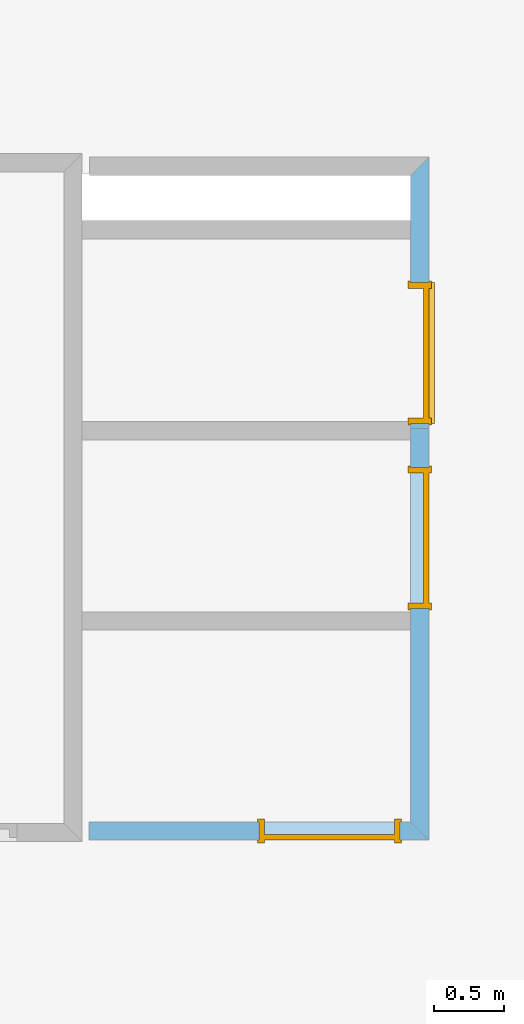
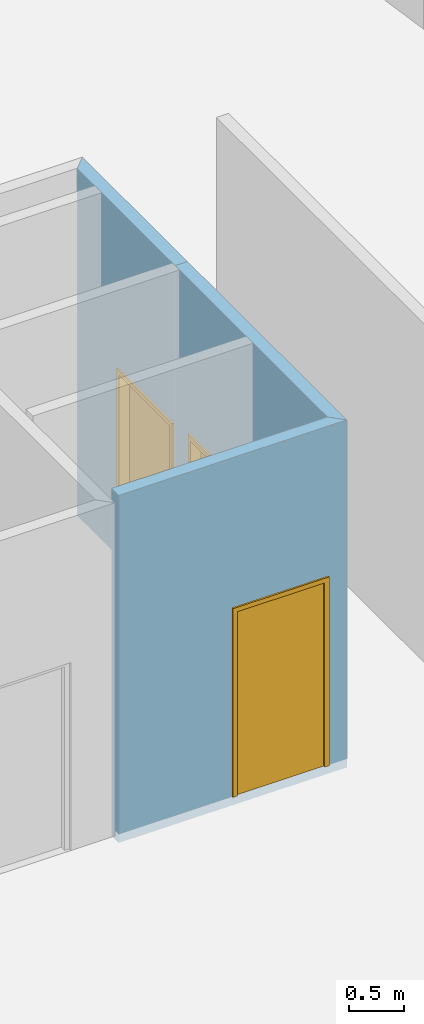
# One storey, part 23 of 27: 3 doors, 3 openings, plus 3 elements that do not belong to this part.
"""IFC2X3 building model written with IfcOpenShell, lengths in metres."""

from ifc_helpers import new_model, entity, si_unit, converted_unit, money_unit, direction, frame, origin_with_axes, origin_2d_with_axis, place, context, subcontext, project, spatial, polyline, rectangle, outline, extrude, faceted_brep, source, transform, mapped, material, material_list, layer, layer_set, layer_usage, type_object, element, fill, save


model = new_model("IFC2X3")

# Units and contexts
model_context = context("Model", 3, precision=1e-05, world=origin_with_axes(), true_north=direction((0.0, 1.0)))
body_context = subcontext(model_context, "Body", "Model", "MODEL_VIEW")
ifc_project = project(units=[si_unit("LENGTHUNIT", "METRE"), si_unit("AREAUNIT", "SQUARE_METRE"), si_unit("VOLUMEUNIT", "CUBIC_METRE"), converted_unit("PLANEANGLEUNIT", "DEGREE", entity("IfcPlaneAngleMeasure", 0.0174532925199), si_unit("PLANEANGLEUNIT", "RADIAN"), dimensions=[0, 0, 0, 0, 0, 0, 0]), si_unit("SOLIDANGLEUNIT", "STERADIAN"), money_unit("EUR"), converted_unit("TIMEUNIT", "Year", entity("IfcTimeMeasure", 31556926.0), si_unit("TIMEUNIT", "SECOND"), dimensions=[0, 0, 0, 0, 0, 0, 0]), si_unit("MASSUNIT", "GRAM"), si_unit("THERMODYNAMICTEMPERATUREUNIT", "DEGREE_CELSIUS"), si_unit("LUMINOUSINTENSITYUNIT", "LUMEN")], contexts=[model_context])

# Site, building, storey
site_placement = place(None, origin_with_axes())
site = spatial("IfcSite", under=ifc_project, at=site_placement, Name="Undefined", CompositionType="ELEMENT")
building_placement = place(site_placement, origin_with_axes())
building = spatial("IfcBuilding", under=site, at=building_placement, Name="Undefined", CompositionType="ELEMENT")
storey_placement = place(building_placement, frame((0.0, 0.0, 5.4), z_axis=(0.0, 0.0, 1.0), x_axis=(1.0, 0.0, 0.0)))
storey = spatial("IfcBuildingStorey", under=building, at=storey_placement, Name="R+1", CompositionType="ELEMENT", Elevation=5.4)

# Wall, opening, door
ifc_material_1 = material(Name="Finition int - Enduit pl\x89tre")
ifc_layer_1 = layer(ifc_material_1, 0.015, ventilated="UNKNOWN")
ifc_material_2 = material(Name="Struct. - Parpaing b\x8eton")
ifc_layer_2 = layer(ifc_material_2, 0.1, ventilated="UNKNOWN")
ifc_layer_3 = layer(ifc_material_1, 0.015, ventilated="UNKNOWN")
ifc_layer_set = layer_set([ifc_layer_1, ifc_layer_2, ifc_layer_3], Name="0.0-Cloison: parpaing + pl\x89tre 2 faces copie")
ifc_layer_usage_1 = layer_usage(ifc_layer_set, "AXIS2", "POSITIVE", -0.05)
wall_type = type_object("IfcWallType", Name="0.0-Cloison: parpaing + pl\x89tre 2 faces copie 130", PredefinedType="NOTDEFINED")
wall_1_placement = place(storey_placement, frame((59.375, 9.245, -0.1), z_axis=(0.0, 0.0, 1.0), x_axis=(0.0, 1.0, 0.0)))
wall_1 = element("IfcWallStandardCase", 1, at=wall_1_placement, inside=storey, type_object=wall_type, material=ifc_layer_usage_1, Name="VOILE_10CM", context=body_context, shape_type="SweptSolid", body=[
    extrude(outline(polyline([(-0.05, -0.05), (2.86999999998, -0.05), (2.86999999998, 0.08), (0.08, 0.08), (-0.05, -0.05)])), origin_with_axes(), (0.0, 0.0, 1.0), 3.88499999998),
])
opening_1_placement = place(wall_1_placement, frame((2.09347547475, 0.0, 0.06), z_axis=(0.0, 0.0, 1.0), x_axis=(1.0, 0.0, 0.0)))
opening_1 = element("IfcOpeningElement", 2, at=opening_1_placement, cuts=wall_1, Name="DOOR_1000", context=body_context, shape_type="SweptSolid", body=[
    extrude(rectangle(XDim=1.0, YDim=2.1, at=origin_2d_with_axis()), frame((0.0, 0.13, 1.05), z_axis=(0.0, -1.0, 0.0), x_axis=(-1.0, 0.0, 0.0)), (0.0, 0.0, 1.0), 0.39),
    extrude(rectangle(XDim=1.02, YDim=2.11, at=origin_2d_with_axis()), frame((0.0, 0.21, 1.055), z_axis=(0.0, -1.0, 0.0), x_axis=(-1.0, 0.0, 0.0)), (0.0, 0.0, 1.0), 0.13),
    extrude(rectangle(XDim=1.02, YDim=2.11, at=origin_2d_with_axis()), frame((0.0, -0.18, 1.055), z_axis=(0.0, 1.0, 0.0), x_axis=(-1.0, 0.0, 0.0)), (0.0, 0.0, 1.0), 0.13),
])
ifc_material_3 = material(Name="Empty Fill")
ifc_material_4 = material(Name="Air Space")
ifc_material_5 = material(Name="Foreground")
ifc_material_6 = material(Name="Background Fill-International")
ifc_material_7 = material(Name="Rigid Insulation")
ifc_material_8 = material(Name="Background")
ifc_material_list = material_list([ifc_material_3, ifc_material_4, ifc_material_5, ifc_material_3, ifc_material_6, ifc_material_3, ifc_material_3, ifc_material_7, ifc_material_6, ifc_material_3, ifc_material_3, ifc_material_3, ifc_material_4, ifc_material_8, ifc_material_8, ifc_material_6])
door_style_1 = type_object("IfcDoorStyle", Name="Porte 18", ConstructionType="NOTDEFINED", OperationType="SINGLE_SWING_RIGHT", ParameterTakesPrecedence=False, Sizeable=False)
shared_shape_1 = source(origin_with_axes(), body_context, "Body", "Brep", [
    faceted_brep([(-0.51, -0.149, 0.0), (-0.51, -0.13, 0.0), (-0.46, -0.13, 0.0), (-0.46, -0.149, 0.0), (-0.51, -0.149, 2.11), (-0.51, -0.13, 2.11), (-0.46, -0.13, 2.06), (-0.46, -0.149, 2.06)], [[[0, 1, 2, 3]], [[4, 5, 1, 0]], [[1, 5, 6, 2]], [[3, 2, 6, 7]], [[0, 3, 7, 4]], [[7, 6, 5, 4]]]),
    faceted_brep([(0.51, -0.149, 2.11), (0.51, -0.13, 2.11), (0.46, -0.13, 2.06), (0.46, -0.149, 2.06), (0.51, -0.149, 0.0), (0.51, -0.13, 0.0), (0.46, -0.13, 0.0), (0.46, -0.149, 0.0)], [[[0, 1, 2, 3]], [[4, 5, 1, 0]], [[1, 5, 6, 2]], [[3, 2, 6, 7]], [[0, 3, 7, 4]], [[7, 6, 5, 4]]]),
    faceted_brep([(-0.51, -0.149, 2.11), (-0.51, -0.13, 2.11), (-0.46, -0.13, 2.06), (-0.46, -0.149, 2.06), (0.51, -0.149, 2.11), (0.51, -0.13, 2.11), (0.46, -0.13, 2.06), (0.46, -0.149, 2.06)], [[[0, 1, 2, 3]], [[4, 5, 1, 0]], [[1, 5, 6, 2]], [[3, 2, 6, 7]], [[0, 3, 7, 4]], [[7, 6, 5, 4]]]),
    faceted_brep([(-0.51, 0.019, 0.0), (-0.46, 0.019, 0.0), (-0.46, 0.0, 0.0), (-0.51, 0.0, 0.0), (-0.51, 0.019, 2.11), (-0.46, 0.019, 2.06), (-0.46, 0.0, 2.06), (-0.51, 0.0, 2.11)], [[[0, 1, 2, 3]], [[0, 4, 5, 1]], [[1, 5, 6, 2]], [[3, 2, 6, 7]], [[4, 0, 3, 7]], [[5, 4, 7, 6]]]),
    faceted_brep([(0.51, 0.019, 2.11), (0.46, 0.019, 2.06), (0.46, 0.0, 2.06), (0.51, 0.0, 2.11), (0.51, 0.019, 0.0), (0.46, 0.019, 0.0), (0.46, 0.0, 0.0), (0.51, 0.0, 0.0)], [[[0, 1, 2, 3]], [[0, 4, 5, 1]], [[1, 5, 6, 2]], [[3, 2, 6, 7]], [[4, 0, 3, 7]], [[5, 4, 7, 6]]]),
    faceted_brep([(-0.51, 0.019, 2.11), (-0.46, 0.019, 2.06), (-0.46, 0.0, 2.06), (-0.51, 0.0, 2.11), (0.51, 0.019, 2.11), (0.46, 0.019, 2.06), (0.46, 0.0, 2.06), (0.51, 0.0, 2.11)], [[[0, 1, 2, 3]], [[0, 4, 5, 1]], [[1, 5, 6, 2]], [[3, 2, 6, 7]], [[4, 0, 3, 7]], [[5, 4, 7, 6]]]),
    faceted_brep([(-0.46, -0.04, 0.0), (-0.46, -0.04, 2.06), (-0.46, -0.13, 2.06), (-0.46, -0.13, 0.0), (-0.472, -0.04, 2.06), (-0.472, -0.04, 0.0), (-0.472, 0.0, 2.06), (-0.5, 0.0, 2.06), (-0.5, -0.13, 2.06), (-0.5, -0.13, 0.0), (-0.5, 0.0, 0.0), (-0.472, 0.0, 0.0)], [[[0, 1, 2, 3]], [[4, 1, 0, 5]], [[4, 6, 7, 8, 2, 1]], [[8, 9, 3, 2]], [[5, 0, 3, 9, 10, 11]], [[6, 4, 5, 11]], [[6, 11, 10, 7]], [[8, 7, 10, 9]]]),
    faceted_brep([(0.472, -0.04, 2.06), (0.46, -0.04, 2.06), (0.46, -0.13, 2.06), (0.5, -0.13, 2.06), (0.5, 0.0, 2.06), (0.472, 0.0, 2.06), (0.472, -0.04, 0.0), (0.46, -0.04, 0.0), (0.46, -0.13, 0.0), (0.5, -0.13, 0.0), (0.5, 0.0, 0.0), (0.472, 0.0, 0.0)], [[[0, 1, 2, 3, 4, 5]], [[1, 0, 6, 7]], [[1, 7, 8, 2]], [[8, 9, 3, 2]], [[9, 10, 4, 3]], [[11, 5, 4, 10]], [[0, 5, 11, 6]], [[6, 11, 10, 9, 8, 7]]]),
    faceted_brep([(-0.472, 0.0, 2.072), (-0.472, 0.0, 2.06), (-0.5, 0.0, 2.06), (-0.5, 0.0, 2.1), (0.5, 0.0, 2.1), (0.5, 0.0, 2.06), (0.472, 0.0, 2.06), (0.472, 0.0, 2.072), (-0.472, -0.04, 2.072), (-0.472, -0.04, 2.06), (-0.46, -0.04, 2.06), (-0.46, -0.13, 2.06), (-0.5, -0.13, 2.06), (-0.5, -0.13, 2.1), (0.5, -0.13, 2.1), (0.5, -0.13, 2.06), (0.472, -0.04, 2.06), (0.46, -0.13, 2.06), (0.46, -0.04, 2.06), (0.472, -0.04, 2.072)], [[[0, 1, 2, 3, 4, 5, 6, 7]], [[1, 0, 8, 9]], [[9, 10, 11, 12, 2, 1]], [[13, 3, 2, 12]], [[14, 4, 3, 13]], [[15, 5, 4, 14]], [[16, 6, 5, 15, 17, 18]], [[7, 6, 16, 19]], [[0, 7, 19, 8]], [[16, 18, 10, 9, 8, 19]], [[10, 18, 17, 11]], [[14, 13, 12, 11, 17, 15]]]),
    faceted_brep([(0.472, 0.0, 0.0), (0.472, -0.04, 0.0), (-0.472, -0.04, 0.0), (-0.472, 0.0, 0.0), (0.472, 0.0, 2.072), (0.472, -0.04, 2.072), (-0.472, -0.04, 2.072), (-0.472, 0.0, 2.072)], [[[0, 1, 2, 3]], [[4, 5, 1, 0]], [[1, 5, 6, 2]], [[3, 2, 6, 7]], [[0, 3, 7, 4]], [[7, 6, 5, 4]]]),
])
door_1_placement = place(opening_1_placement, frame((0.5, 0.0, 0.0), z_axis=(0.0, 0.0, 1.0), x_axis=(-1.0, 0.0, 0.0)))
door_1 = element("IfcDoor", 3, at=door_1_placement, inside=storey, type_object=door_style_1, material=ifc_material_list, Name="DOOR_1000", ObjectType="DOOR", OverallHeight=2.1, OverallWidth=1.0, context=body_context, shape_type="MappedRepresentation", body=[
    mapped(shared_shape_1, transform((0.5, 0.05, 0.0))),
])
fill(opening_1, door_1)

ifc_layer_usage_2 = layer_usage(ifc_layer_set, "AXIS2", "POSITIVE", -0.05)
wall_2_placement = place(storey_placement, frame((57.0135327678, 9.245, -0.1), z_axis=(0.0, 0.0, 1.0), x_axis=(1.0, 0.0, 0.0)))
wall_2 = element("IfcWallStandardCase", 4, at=wall_2_placement, inside=storey, type_object=wall_type, material=ifc_layer_usage_2, Name="VOILE_10CM", context=body_context, shape_type="SweptSolid", body=[
    extrude(outline(polyline([(0.0, -0.05), (2.41146723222, -0.05), (2.28146723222, 0.08), (0.0, 0.08), (0.0, -0.05)])), origin_with_axes(), (0.0, 0.0, 1.0), 3.88499999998),
])
opening_2_placement = place(wall_2_placement, frame((1.70624922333, 0.0, 0.1), z_axis=(0.0, 0.0, 1.0), x_axis=(1.0, 0.0, 0.0)))
opening_2 = element("IfcOpeningElement", 5, at=opening_2_placement, cuts=wall_2, Name="DOOR_1000", context=body_context, shape_type="SweptSolid", body=[
    extrude(rectangle(XDim=1.0, YDim=2.1, at=origin_2d_with_axis()), frame((0.0, 0.13, 1.05), z_axis=(0.0, 1.0, 0.0), x_axis=(1.0, 0.0, 0.0)), (0.0, 0.0, -1.0), 0.39),
    extrude(rectangle(XDim=1.02, YDim=2.11, at=origin_2d_with_axis()), frame((0.0, 0.21, 1.055), z_axis=(0.0, 1.0, 0.0), x_axis=(1.0, 0.0, 0.0)), (0.0, 0.0, -1.0), 0.13),
    extrude(rectangle(XDim=1.02, YDim=2.11, at=origin_2d_with_axis()), frame((0.0, -0.18, 1.055), z_axis=(0.0, -1.0, 0.0), x_axis=(1.0, 0.0, 0.0)), (0.0, 0.0, -1.0), 0.13),
])
door_style_2 = type_object("IfcDoorStyle", Name="Porte 18", ConstructionType="NOTDEFINED", OperationType="SINGLE_SWING_LEFT", ParameterTakesPrecedence=False, Sizeable=False)
shared_shape_2 = source(origin_with_axes(), body_context, "Body", "Brep", [
    faceted_brep([(0.51, -0.149, 0.0), (0.46, -0.149, 0.0), (0.46, -0.13, 0.0), (0.51, -0.13, 0.0), (0.51, -0.149, 2.11), (0.46, -0.149, 2.06), (0.46, -0.13, 2.06), (0.51, -0.13, 2.11)], [[[0, 1, 2, 3]], [[0, 4, 5, 1]], [[1, 5, 6, 2]], [[3, 2, 6, 7]], [[4, 0, 3, 7]], [[5, 4, 7, 6]]]),
    faceted_brep([(-0.51, -0.149, 2.11), (-0.46, -0.149, 2.06), (-0.46, -0.13, 2.06), (-0.51, -0.13, 2.11), (-0.51, -0.149, 0.0), (-0.46, -0.149, 0.0), (-0.46, -0.13, 0.0), (-0.51, -0.13, 0.0)], [[[0, 1, 2, 3]], [[0, 4, 5, 1]], [[1, 5, 6, 2]], [[3, 2, 6, 7]], [[4, 0, 3, 7]], [[5, 4, 7, 6]]]),
    faceted_brep([(0.51, -0.149, 2.11), (0.46, -0.149, 2.06), (0.46, -0.13, 2.06), (0.51, -0.13, 2.11), (-0.51, -0.149, 2.11), (-0.46, -0.149, 2.06), (-0.46, -0.13, 2.06), (-0.51, -0.13, 2.11)], [[[0, 1, 2, 3]], [[0, 4, 5, 1]], [[1, 5, 6, 2]], [[3, 2, 6, 7]], [[4, 0, 3, 7]], [[5, 4, 7, 6]]]),
    faceted_brep([(0.51, 0.019, 0.0), (0.51, 0.0, 0.0), (0.46, 0.0, 0.0), (0.46, 0.019, 0.0), (0.51, 0.019, 2.11), (0.51, 0.0, 2.11), (0.46, 0.0, 2.06), (0.46, 0.019, 2.06)], [[[0, 1, 2, 3]], [[4, 5, 1, 0]], [[1, 5, 6, 2]], [[3, 2, 6, 7]], [[0, 3, 7, 4]], [[7, 6, 5, 4]]]),
    faceted_brep([(-0.51, 0.019, 2.11), (-0.51, 0.0, 2.11), (-0.46, 0.0, 2.06), (-0.46, 0.019, 2.06), (-0.51, 0.019, 0.0), (-0.51, 0.0, 0.0), (-0.46, 0.0, 0.0), (-0.46, 0.019, 0.0)], [[[0, 1, 2, 3]], [[4, 5, 1, 0]], [[1, 5, 6, 2]], [[3, 2, 6, 7]], [[0, 3, 7, 4]], [[7, 6, 5, 4]]]),
    faceted_brep([(0.51, 0.019, 2.11), (0.51, 0.0, 2.11), (0.46, 0.0, 2.06), (0.46, 0.019, 2.06), (-0.51, 0.019, 2.11), (-0.51, 0.0, 2.11), (-0.46, 0.0, 2.06), (-0.46, 0.019, 2.06)], [[[0, 1, 2, 3]], [[4, 5, 1, 0]], [[1, 5, 6, 2]], [[3, 2, 6, 7]], [[0, 3, 7, 4]], [[7, 6, 5, 4]]]),
    faceted_brep([(0.46, -0.04, 0.0), (0.46, -0.13, 0.0), (0.46, -0.13, 2.06), (0.46, -0.04, 2.06), (0.472, -0.04, 0.0), (0.472, 0.0, 0.0), (0.5, 0.0, 0.0), (0.5, -0.13, 0.0), (0.5, -0.13, 2.06), (0.472, -0.04, 2.06), (0.5, 0.0, 2.06), (0.472, 0.0, 2.06)], [[[0, 1, 2, 3]], [[4, 5, 6, 7, 1, 0]], [[8, 2, 1, 7]], [[9, 3, 2, 8, 10, 11]], [[9, 4, 0, 3]], [[11, 5, 4, 9]], [[11, 10, 6, 5]], [[8, 7, 6, 10]]]),
    faceted_brep([(-0.472, -0.04, 2.06), (-0.472, 0.0, 2.06), (-0.5, 0.0, 2.06), (-0.5, -0.13, 2.06), (-0.46, -0.13, 2.06), (-0.46, -0.04, 2.06), (-0.472, -0.04, 0.0), (-0.472, 0.0, 0.0), (-0.5, 0.0, 0.0), (-0.5, -0.13, 0.0), (-0.46, -0.13, 0.0), (-0.46, -0.04, 0.0)], [[[0, 1, 2, 3, 4, 5]], [[0, 6, 7, 1]], [[7, 8, 2, 1]], [[9, 3, 2, 8]], [[10, 4, 3, 9]], [[5, 4, 10, 11]], [[5, 11, 6, 0]], [[6, 11, 10, 9, 8, 7]]]),
    faceted_brep([(0.472, 0.0, 2.072), (-0.472, 0.0, 2.072), (-0.472, 0.0, 2.06), (-0.5, 0.0, 2.06), (-0.5, 0.0, 2.1), (0.5, 0.0, 2.1), (0.5, 0.0, 2.06), (0.472, 0.0, 2.06), (0.472, -0.04, 2.072), (-0.472, -0.04, 2.072), (-0.472, -0.04, 2.06), (-0.46, -0.04, 2.06), (-0.46, -0.13, 2.06), (-0.5, -0.13, 2.06), (-0.5, -0.13, 2.1), (0.5, -0.13, 2.1), (0.5, -0.13, 2.06), (0.472, -0.04, 2.06), (0.46, -0.13, 2.06), (0.46, -0.04, 2.06)], [[[0, 1, 2, 3, 4, 5, 6, 7]], [[0, 8, 9, 1]], [[1, 9, 10, 2]], [[10, 11, 12, 13, 3, 2]], [[13, 14, 4, 3]], [[14, 15, 5, 4]], [[15, 16, 6, 5]], [[17, 7, 6, 16, 18, 19]], [[7, 17, 8, 0]], [[10, 9, 8, 17, 19, 11]], [[19, 18, 12, 11]], [[14, 13, 12, 18, 16, 15]]]),
    faceted_brep([(-0.472, 0.0, 0.0), (0.472, 0.0, 0.0), (0.472, -0.04, 0.0), (-0.472, -0.04, 0.0), (-0.472, 0.0, 2.072), (0.472, 0.0, 2.072), (0.472, -0.04, 2.072), (-0.472, -0.04, 2.072)], [[[0, 1, 2, 3]], [[0, 4, 5, 1]], [[1, 5, 6, 2]], [[3, 2, 6, 7]], [[4, 0, 3, 7]], [[5, 4, 7, 6]]]),
])
door_2_placement = place(opening_2_placement, frame((0.5, 0.0, 0.0), z_axis=(0.0, 0.0, 1.0), x_axis=(-1.0, 0.0, 0.0)))
door_2 = element("IfcDoor", 6, at=door_2_placement, inside=storey, type_object=door_style_2, material=ifc_material_list, Name="DOOR_1000", ObjectType="DOOR", OverallHeight=2.1, OverallWidth=1.0, context=body_context, shape_type="MappedRepresentation", body=[
    mapped(shared_shape_2, transform((0.5, 0.05, 0.0))),
])
fill(opening_2, door_2)

ifc_layer_usage_3 = layer_usage(ifc_layer_set, "AXIS2", "POSITIVE", -0.05)
wall_3_placement = place(storey_placement, frame((59.375, 12.115, -0.1), z_axis=(0.0, 0.0, 1.0), x_axis=(0.0, 1.0, 0.0)))
wall_3 = element("IfcWallStandardCase", 7, at=wall_3_placement, inside=storey, type_object=wall_type, material=ifc_layer_usage_3, Name="Wall_Int_05", context=body_context, shape_type="SweptSolid", body=[
    extrude(outline(polyline([(0.0, -0.05), (1.92500000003, -0.05), (1.79500000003, 0.08), (0.0, 0.08), (0.0, -0.05)])), origin_with_axes(), (0.0, 0.0, 1.0), 3.88499999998),
])
opening_3_placement = place(wall_3_placement, frame((0.535, 0.0, 0.0), z_axis=(0.0, 0.0, 1.0), x_axis=(1.0, 0.0, 0.0)))
opening_3 = element("IfcOpeningElement", 8, at=opening_3_placement, cuts=wall_3, Name="DOOR_1000", context=body_context, shape_type="SweptSolid", body=[
    extrude(rectangle(XDim=1.0, YDim=2.1, at=origin_2d_with_axis()), frame((0.0, 0.13, 1.05), z_axis=(0.0, -1.0, 0.0), x_axis=(-1.0, 0.0, 0.0)), (0.0, 0.0, 1.0), 0.39),
    extrude(rectangle(XDim=1.0, YDim=0.105069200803, at=origin_2d_with_axis()), frame((0.0, -0.18, -0.0525346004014), z_axis=(0.0, 1.0, 0.0), x_axis=(-1.0, 0.0, 0.0)), (0.0, 0.0, 1.0), 0.167364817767),
    extrude(rectangle(XDim=1.02, YDim=2.11, at=origin_2d_with_axis()), frame((0.0, 0.21, 1.055), z_axis=(0.0, -1.0, 0.0), x_axis=(-1.0, 0.0, 0.0)), (0.0, 0.0, 1.0), 0.13),
    extrude(rectangle(XDim=1.02, YDim=2.2150692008, at=origin_2d_with_axis()), frame((0.0, -0.18, 1.0024653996), z_axis=(0.0, 1.0, 0.0), x_axis=(-1.0, 0.0, 0.0)), (0.0, 0.0, 1.0), 0.13),
])
shared_shape_3 = source(origin_with_axes(), body_context, "Body", "Brep", [
    faceted_brep([(-0.5, -0.02, 0.0), (0.5, -0.02, 0.0), (0.5, 0.0373648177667, -0.0101149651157), (-0.5, 0.0373648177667, -0.0101149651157), (-0.5, -0.0373648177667, -0.0984807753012), (0.5, -0.0373648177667, -0.0984807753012), (0.5, 0.02, -0.108595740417), (-0.5, 0.02, -0.108595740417)], [[[0, 1, 2, 3]], [[4, 5, 1, 0]], [[1, 5, 6, 2]], [[3, 2, 6, 7]], [[0, 3, 7, 4]], [[7, 6, 5, 4]]]),
    faceted_brep([(-0.51, -0.149, 0.0), (-0.51, -0.13, 0.0), (-0.46, -0.13, 0.0), (-0.46, -0.149, 0.0), (-0.51, -0.149, 2.11), (-0.51, -0.13, 2.11), (-0.46, -0.13, 2.06), (-0.46, -0.149, 2.06)], [[[0, 1, 2, 3]], [[4, 5, 1, 0]], [[1, 5, 6, 2]], [[3, 2, 6, 7]], [[0, 3, 7, 4]], [[7, 6, 5, 4]]]),
    faceted_brep([(0.51, -0.149, 2.11), (0.51, -0.13, 2.11), (0.46, -0.13, 2.06), (0.46, -0.149, 2.06), (0.51, -0.149, 0.0), (0.51, -0.13, 0.0), (0.46, -0.13, 0.0), (0.46, -0.149, 0.0)], [[[0, 1, 2, 3]], [[4, 5, 1, 0]], [[1, 5, 6, 2]], [[3, 2, 6, 7]], [[0, 3, 7, 4]], [[7, 6, 5, 4]]]),
    faceted_brep([(-0.51, -0.149, 2.11), (-0.51, -0.13, 2.11), (-0.46, -0.13, 2.06), (-0.46, -0.149, 2.06), (0.51, -0.149, 2.11), (0.51, -0.13, 2.11), (0.46, -0.13, 2.06), (0.46, -0.149, 2.06)], [[[0, 1, 2, 3]], [[4, 5, 1, 0]], [[1, 5, 6, 2]], [[3, 2, 6, 7]], [[0, 3, 7, 4]], [[7, 6, 5, 4]]]),
    faceted_brep([(-0.5, 0.0, -0.00352653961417), (-0.46, 0.0, -0.00352653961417), (-0.46, 0.0, 2.06), (-0.51, 0.0, 2.11), (-0.51, 0.0, -0.00352653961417), (-0.46, 0.019, -0.00687675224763), (-0.5, 0.019, -0.00687675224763), (-0.46, 0.019, 2.06), (-0.51, 0.019, 2.11), (-0.51, 0.019, -0.00687675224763)], [[[0, 1, 2, 3, 4]], [[5, 1, 0, 6]], [[1, 5, 7, 2]], [[2, 7, 8, 3]], [[3, 8, 9, 4]], [[0, 4, 9, 6]], [[6, 9, 8, 7, 5]]]),
    faceted_brep([(0.5, 0.0, -0.00352653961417), (0.51, 0.0, -0.00352653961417), (0.51, 0.0, 2.11), (0.46, 0.0, 2.06), (0.46, 0.0, -0.00352653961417), (0.5, 0.019, -0.00687675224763), (0.51, 0.019, -0.00687675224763), (0.51, 0.019, 2.11), (0.46, 0.019, 2.06), (0.46, 0.019, -0.00687675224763)], [[[0, 1, 2, 3, 4]], [[0, 5, 6, 1]], [[6, 7, 2, 1]], [[2, 7, 8, 3]], [[9, 4, 3, 8]], [[0, 4, 9, 5]], [[5, 9, 8, 7, 6]]]),
    faceted_brep([(-0.51, 0.019, 2.11), (-0.46, 0.019, 2.06), (-0.46, 0.0, 2.06), (-0.51, 0.0, 2.11), (0.51, 0.019, 2.11), (0.46, 0.019, 2.06), (0.46, 0.0, 2.06), (0.51, 0.0, 2.11)], [[[0, 1, 2, 3]], [[0, 4, 5, 1]], [[1, 5, 6, 2]], [[3, 2, 6, 7]], [[4, 0, 3, 7]], [[5, 4, 7, 6]]]),
    faceted_brep([(-0.46, -0.04, 0.0), (-0.46, -0.04, 2.06), (-0.46, -0.13, 2.06), (-0.46, -0.13, 0.0), (-0.472, -0.04, 2.06), (-0.472, -0.04, 0.0), (-0.472, 0.0, 2.06), (-0.5, 0.0, 2.06), (-0.5, -0.13, 2.06), (-0.5, -0.13, 0.0), (-0.5, 0.0, 0.0), (-0.472, 0.0, 0.0)], [[[0, 1, 2, 3]], [[4, 1, 0, 5]], [[4, 6, 7, 8, 2, 1]], [[8, 9, 3, 2]], [[5, 0, 3, 9, 10, 11]], [[6, 4, 5, 11]], [[6, 11, 10, 7]], [[8, 7, 10, 9]]]),
    faceted_brep([(0.472, -0.04, 2.06), (0.46, -0.04, 2.06), (0.46, -0.13, 2.06), (0.5, -0.13, 2.06), (0.5, 0.0, 2.06), (0.472, 0.0, 2.06), (0.472, -0.04, 0.0), (0.46, -0.04, 0.0), (0.46, -0.13, 0.0), (0.5, -0.13, 0.0), (0.5, 0.0, 0.0), (0.472, 0.0, 0.0)], [[[0, 1, 2, 3, 4, 5]], [[1, 0, 6, 7]], [[1, 7, 8, 2]], [[8, 9, 3, 2]], [[9, 10, 4, 3]], [[11, 5, 4, 10]], [[0, 5, 11, 6]], [[6, 11, 10, 9, 8, 7]]]),
    faceted_brep([(-0.472, 0.0, 2.072), (-0.472, 0.0, 2.06), (-0.5, 0.0, 2.06), (-0.5, 0.0, 2.1), (0.5, 0.0, 2.1), (0.5, 0.0, 2.06), (0.472, 0.0, 2.06), (0.472, 0.0, 2.072), (-0.472, -0.04, 2.072), (-0.472, -0.04, 2.06), (-0.46, -0.04, 2.06), (-0.46, -0.13, 2.06), (-0.5, -0.13, 2.06), (-0.5, -0.13, 2.1), (0.5, -0.13, 2.1), (0.5, -0.13, 2.06), (0.472, -0.04, 2.06), (0.46, -0.13, 2.06), (0.46, -0.04, 2.06), (0.472, -0.04, 2.072)], [[[0, 1, 2, 3, 4, 5, 6, 7]], [[1, 0, 8, 9]], [[9, 10, 11, 12, 2, 1]], [[13, 3, 2, 12]], [[14, 4, 3, 13]], [[15, 5, 4, 14]], [[16, 6, 5, 15, 17, 18]], [[7, 6, 16, 19]], [[0, 7, 19, 8]], [[16, 18, 10, 9, 8, 19]], [[10, 18, 17, 11]], [[14, 13, 12, 11, 17, 15]]]),
    faceted_brep([(0.472, 0.0, 0.0), (0.472, -0.04, 0.0), (-0.472, -0.04, 0.0), (-0.472, 0.0, 0.0), (0.472, 0.0, 2.072), (0.472, -0.04, 2.072), (-0.472, -0.04, 2.072), (-0.472, 0.0, 2.072)], [[[0, 1, 2, 3]], [[4, 5, 1, 0]], [[1, 5, 6, 2]], [[3, 2, 6, 7]], [[0, 3, 7, 4]], [[7, 6, 5, 4]]]),
])
door_3_placement = place(opening_3_placement, frame((0.5, 0.0, 0.0), z_axis=(0.0, 0.0, 1.0), x_axis=(-1.0, 0.0, 0.0)))
door_3 = element("IfcDoor", 9, at=door_3_placement, inside=storey, type_object=door_style_1, material=ifc_material_list, Name="DOOR_1000", ObjectType="DOOR", OverallHeight=2.1, OverallWidth=1.0, context=body_context, shape_type="MappedRepresentation", body=[
    mapped(shared_shape_3, transform((0.5, 0.05, 0.0))),
])
fill(opening_3, door_3)

save(model, "model.ifc")
